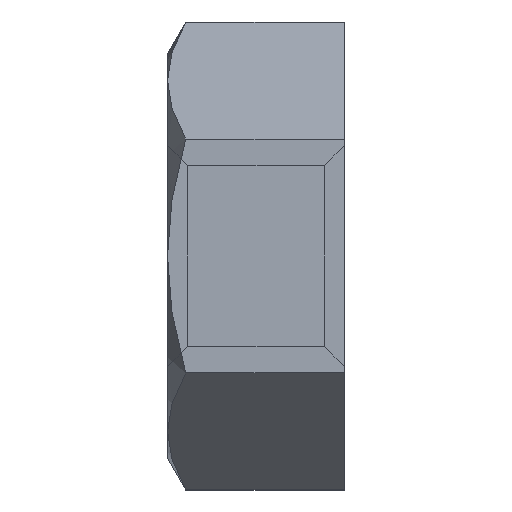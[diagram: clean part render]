
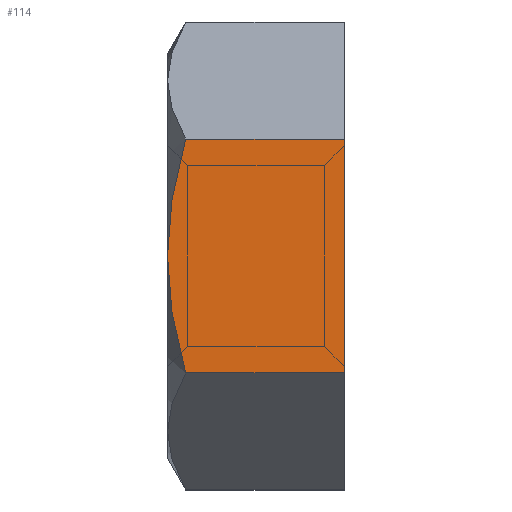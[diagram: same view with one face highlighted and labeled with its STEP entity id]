
A CAD part, left-side view. The second image highlights one B-rep face of the part: STEP entity #114.
In plain terms, the highlighted planar face has unit normal (-1, 0, 0) as drawn and (0, 0, 1) by its records, which use the part's own axes.
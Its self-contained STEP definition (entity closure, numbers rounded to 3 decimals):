
#114=ADVANCED_FACE('',(#180),#1953,.T.);
#180=FACE_OUTER_BOUND('',#250,.T.);
#250=EDGE_LOOP('',(#483,#484,#485,#486,#487));
#483=ORIENTED_EDGE('',*,*,#1666,.F.);
#484=ORIENTED_EDGE('',*,*,#1669,.T.);
#485=ORIENTED_EDGE('',*,*,#1670,.T.);
#486=ORIENTED_EDGE('',*,*,#1671,.T.);
#487=ORIENTED_EDGE('',*,*,#1672,.T.);
#768=PCURVE('',#1952,#1056);
#771=PCURVE('',#1953,#1059);
#772=PCURVE('',#1953,#1060);
#773=PCURVE('',#1953,#1061);
#774=PCURVE('',#1953,#1062);
#775=PCURVE('',#1953,#1063);
#776=PCURVE('',#1954,#1064);
#806=PCURVE('',#1996,#1094);
#808=PCURVE('',#1997,#1096);
#828=PCURVE('',#1958,#1116);
#1056=DEFINITIONAL_REPRESENTATION('',(#1347),#4282);
#1059=DEFINITIONAL_REPRESENTATION('',(#1348),#4282);
#1060=DEFINITIONAL_REPRESENTATION('',(#1350),#4282);
#1061=DEFINITIONAL_REPRESENTATION('',(#1352),#4282);
#1062=DEFINITIONAL_REPRESENTATION('',(#1813),#4282);
#1063=DEFINITIONAL_REPRESENTATION('',(#1815),#4282);
#1064=DEFINITIONAL_REPRESENTATION('',(#1353),#4282);
#1094=DEFINITIONAL_REPRESENTATION('',(#1382),#4282);
#1096=DEFINITIONAL_REPRESENTATION('',(#1384),#4282);
#1116=DEFINITIONAL_REPRESENTATION('',(#1404),#4282);
#1346=B_SPLINE_CURVE_WITH_KNOTS('',1,(#3947,#3948),.UNSPECIFIED.,.F.,.F.,
(2,2),(0.,2.154),.UNSPECIFIED.);
#1347=B_SPLINE_CURVE_WITH_KNOTS('',1,(#3949,#3950),.UNSPECIFIED.,.F.,.F.,
(2,2),(0.,2.154),.UNSPECIFIED.);
#1348=B_SPLINE_CURVE_WITH_KNOTS('',1,(#3963,#3964),.UNSPECIFIED.,.F.,.F.,
(2,2),(0.,2.154),.UNSPECIFIED.);
#1349=B_SPLINE_CURVE_WITH_KNOTS('',1,(#3965,#3966),.UNSPECIFIED.,.F.,.F.,
(2,2),(-3.175,0.),.UNSPECIFIED.);
#1350=B_SPLINE_CURVE_WITH_KNOTS('',1,(#3967,#3968),.UNSPECIFIED.,.F.,.F.,
(2,2),(-3.175,0.),.UNSPECIFIED.);
#1351=B_SPLINE_CURVE_WITH_KNOTS('',1,(#3969,#3970),.UNSPECIFIED.,.F.,.F.,
(2,2),(0.,2.154),.UNSPECIFIED.);
#1352=B_SPLINE_CURVE_WITH_KNOTS('',1,(#3971,#3972),.UNSPECIFIED.,.F.,.F.,
(2,2),(0.,2.154),.UNSPECIFIED.);
#1353=B_SPLINE_CURVE_WITH_KNOTS('',1,(#3985,#3986),.UNSPECIFIED.,.F.,.F.,
(2,2),(0.,2.154),.UNSPECIFIED.);
#1382=B_SPLINE_CURVE_WITH_KNOTS('',3,(#4130,#4131,#4132,#4133,#4134,#4135,
#4136,#4137),.UNSPECIFIED.,.F.,.F.,(4,2,2,4),(-1.661,-0.989,
-0.569,-0.044),.UNSPECIFIED.);
#1384=B_SPLINE_CURVE_WITH_KNOTS('',3,(#4143,#4144,#4145,#4146,#4147,#4148,
#4149,#4150),.UNSPECIFIED.,.F.,.F.,(4,2,2,4),(-3.278,-2.753,
-2.333,-1.661),.UNSPECIFIED.);
#1404=B_SPLINE_CURVE_WITH_KNOTS('',1,(#4227,#4228),.UNSPECIFIED.,.F.,.F.,
(2,2),(-3.175,0.),.UNSPECIFIED.);
#1522=SURFACE_CURVE('',#1346,(#768,#771),.PCURVE_S1.);
#1525=SURFACE_CURVE('',#1349,(#772,#828),.PCURVE_S1.);
#1526=SURFACE_CURVE('',#1351,(#773,#776),.PCURVE_S1.);
#1527=SURFACE_CURVE('',#1812,(#774,#808),.PCURVE_S1.);
#1528=SURFACE_CURVE('',#1814,(#775,#806),.PCURVE_S1.);
#1666=EDGE_CURVE('',#1924,#1925,#1522,.T.);
#1669=EDGE_CURVE('',#1924,#1927,#1525,.T.);
#1670=EDGE_CURVE('',#1927,#1928,#1526,.T.);
#1671=EDGE_CURVE('',#1928,#1926,#1527,.T.);
#1672=EDGE_CURVE('',#1926,#1925,#1528,.T.);
#1812=(
BOUNDED_CURVE()
B_SPLINE_CURVE(2,(#3973,#3974,#3975),.UNSPECIFIED.,.F.,.F.)
B_SPLINE_CURVE_WITH_KNOTS((3,3),(-3.278,-1.661),
 .UNSPECIFIED.)
CURVE()
GEOMETRIC_REPRESENTATION_ITEM()
RATIONAL_B_SPLINE_CURVE((1.,1.038,1.))
REPRESENTATION_ITEM('')
);
#1813=(
BOUNDED_CURVE()
B_SPLINE_CURVE(2,(#3976,#3977,#3978),.UNSPECIFIED.,.F.,.F.)
B_SPLINE_CURVE_WITH_KNOTS((3,3),(-3.278,-1.661),
 .UNSPECIFIED.)
CURVE()
GEOMETRIC_REPRESENTATION_ITEM()
RATIONAL_B_SPLINE_CURVE((1.,1.038,1.))
REPRESENTATION_ITEM('')
);
#1814=(
BOUNDED_CURVE()
B_SPLINE_CURVE(2,(#3979,#3980,#3981),.UNSPECIFIED.,.F.,.F.)
B_SPLINE_CURVE_WITH_KNOTS((3,3),(-1.661,-0.044),
 .UNSPECIFIED.)
CURVE()
GEOMETRIC_REPRESENTATION_ITEM()
RATIONAL_B_SPLINE_CURVE((1.,1.038,1.))
REPRESENTATION_ITEM('')
);
#1815=(
BOUNDED_CURVE()
B_SPLINE_CURVE(2,(#3982,#3983,#3984),.UNSPECIFIED.,.F.,.F.)
B_SPLINE_CURVE_WITH_KNOTS((3,3),(-1.661,-0.044),
 .UNSPECIFIED.)
CURVE()
GEOMETRIC_REPRESENTATION_ITEM()
RATIONAL_B_SPLINE_CURVE((1.,1.038,1.))
REPRESENTATION_ITEM('')
);
#1924=VERTEX_POINT('',#3831);
#1925=VERTEX_POINT('',#3832);
#1926=VERTEX_POINT('',#3833);
#1927=VERTEX_POINT('',#3834);
#1928=VERTEX_POINT('',#3835);
#1952=PLANE('',#2060);
#1953=PLANE('',#2061);
#1954=PLANE('',#2062);
#1958=PLANE('',#2066);
#1996=(
BOUNDED_SURFACE()
B_SPLINE_SURFACE(2,1,((#3705,#3706),(#3707,#3708),(#3709,#3710),(#3711,#3712),
(#3713,#3714),(#3715,#3716),(#3717,#3718),(#3719,#3720),(#3721,#3722)),
 .UNSPECIFIED.,.T.,.F.,.F.)
B_SPLINE_SURFACE_WITH_KNOTS((3,2,2,2,3),(2,2),(0.,1.571,3.142,
4.712,6.283),(0.,4.036),.UNSPECIFIED.)
GEOMETRIC_REPRESENTATION_ITEM()
RATIONAL_B_SPLINE_SURFACE(((1.,1.),(0.707,0.707),
(1.,1.),(0.707,0.707),(1.,1.),(0.707,
0.707),(1.,1.),(0.707,0.707),(1.,1.)))
REPRESENTATION_ITEM('')
SURFACE()
);
#1997=(
BOUNDED_SURFACE()
B_SPLINE_SURFACE(2,1,((#3723,#3724),(#3725,#3726),(#3727,#3728),(#3729,#3730),
(#3731,#3732),(#3733,#3734),(#3735,#3736),(#3737,#3738),(#3739,#3740)),
 .UNSPECIFIED.,.T.,.F.,.F.)
B_SPLINE_SURFACE_WITH_KNOTS((3,2,2,2,3),(2,2),(0.,1.571,3.142,
4.712,6.283),(0.,4.036),.UNSPECIFIED.)
GEOMETRIC_REPRESENTATION_ITEM()
RATIONAL_B_SPLINE_SURFACE(((1.,1.),(0.707,0.707),
(1.,1.),(0.707,0.707),(1.,1.),(0.707,
0.707),(1.,1.),(0.707,0.707),(1.,1.)))
REPRESENTATION_ITEM('')
SURFACE()
);
#2060=AXIS2_PLACEMENT_3D('',#3645,#2091,$);
#2061=AXIS2_PLACEMENT_3D('',#3646,#2092,$);
#2062=AXIS2_PLACEMENT_3D('',#3647,#2093,$);
#2066=AXIS2_PLACEMENT_3D('',#3813,#2097,$);
#2091=DIRECTION('',(0.,-0.866,0.5));
#2092=DIRECTION('',(0.,0.,1.));
#2093=DIRECTION('',(0.,0.866,0.5));
#2097=DIRECTION('',(1.,0.,0.));
#3645=CARTESIAN_POINT('',(0.241,-1.428,3.026));
#3646=CARTESIAN_POINT('',(0.241,1.906,2.75));
#3647=CARTESIAN_POINT('',(0.241,3.335,-0.276));
#3705=CARTESIAN_POINT('',(-3.988,0.,0.));
#3706=CARTESIAN_POINT('',(-1.97,3.495,0.));
#3707=CARTESIAN_POINT('',(-3.988,0.,0.));
#3708=CARTESIAN_POINT('',(-1.97,3.495,3.495));
#3709=CARTESIAN_POINT('',(-3.988,0.,0.));
#3710=CARTESIAN_POINT('',(-1.97,0.,3.495));
#3711=CARTESIAN_POINT('',(-3.988,0.,0.));
#3712=CARTESIAN_POINT('',(-1.97,-3.495,3.495));
#3713=CARTESIAN_POINT('',(-3.988,0.,0.));
#3714=CARTESIAN_POINT('',(-1.97,-3.495,0.));
#3715=CARTESIAN_POINT('',(-3.988,0.,0.));
#3716=CARTESIAN_POINT('',(-1.97,-3.495,-3.495));
#3717=CARTESIAN_POINT('',(-3.988,0.,0.));
#3718=CARTESIAN_POINT('',(-1.97,0.,-3.495));
#3719=CARTESIAN_POINT('',(-3.988,0.,0.));
#3720=CARTESIAN_POINT('',(-1.97,3.495,-3.495));
#3721=CARTESIAN_POINT('',(-3.988,0.,0.));
#3722=CARTESIAN_POINT('',(-1.97,3.495,0.));
#3723=CARTESIAN_POINT('',(-3.988,0.,0.));
#3724=CARTESIAN_POINT('',(-1.97,3.495,0.));
#3725=CARTESIAN_POINT('',(-3.988,0.,0.));
#3726=CARTESIAN_POINT('',(-1.97,3.495,3.495));
#3727=CARTESIAN_POINT('',(-3.988,0.,0.));
#3728=CARTESIAN_POINT('',(-1.97,0.,3.495));
#3729=CARTESIAN_POINT('',(-3.988,0.,0.));
#3730=CARTESIAN_POINT('',(-1.97,-3.495,3.495));
#3731=CARTESIAN_POINT('',(-3.988,0.,0.));
#3732=CARTESIAN_POINT('',(-1.97,-3.495,0.));
#3733=CARTESIAN_POINT('',(-3.988,0.,0.));
#3734=CARTESIAN_POINT('',(-1.97,-3.495,-3.495));
#3735=CARTESIAN_POINT('',(-3.988,0.,0.));
#3736=CARTESIAN_POINT('',(-1.97,0.,-3.495));
#3737=CARTESIAN_POINT('',(-3.988,0.,0.));
#3738=CARTESIAN_POINT('',(-1.97,3.495,-3.495));
#3739=CARTESIAN_POINT('',(-3.988,0.,0.));
#3740=CARTESIAN_POINT('',(-1.97,3.495,0.));
#3813=CARTESIAN_POINT('',(0.,3.812,3.301));
#3831=CARTESIAN_POINT('',(0.,-1.588,2.75));
#3832=CARTESIAN_POINT('',(-2.154,-1.588,2.75));
#3833=CARTESIAN_POINT('',(-2.4,0.,2.75));
#3834=CARTESIAN_POINT('',(0.,1.588,2.75));
#3835=CARTESIAN_POINT('',(-2.154,1.588,2.75));
#3947=CARTESIAN_POINT('',(0.,-1.588,2.75));
#3948=CARTESIAN_POINT('',(-2.154,-1.588,2.75));
#3949=CARTESIAN_POINT('',(0.,-3.175));
#3950=CARTESIAN_POINT('',(2.154,-3.175));
#3963=CARTESIAN_POINT('',(0.,0.));
#3964=CARTESIAN_POINT('',(2.154,0.));
#3965=CARTESIAN_POINT('',(0.,-1.588,2.75));
#3966=CARTESIAN_POINT('',(0.,1.588,2.75));
#3967=CARTESIAN_POINT('',(0.,0.));
#3968=CARTESIAN_POINT('',(0.,-3.175));
#3969=CARTESIAN_POINT('',(0.,1.588,2.75));
#3970=CARTESIAN_POINT('',(-2.154,1.588,2.75));
#3971=CARTESIAN_POINT('',(0.,-3.175));
#3972=CARTESIAN_POINT('',(2.154,-3.175));
#3973=CARTESIAN_POINT('',(-2.154,1.588,2.75));
#3974=CARTESIAN_POINT('',(-2.4,0.737,2.75));
#3975=CARTESIAN_POINT('',(-2.4,0.,2.75));
#3976=CARTESIAN_POINT('',(2.154,-3.175));
#3977=CARTESIAN_POINT('',(2.4,-2.325));
#3978=CARTESIAN_POINT('',(2.4,-1.588));
#3979=CARTESIAN_POINT('',(-2.4,0.,2.75));
#3980=CARTESIAN_POINT('',(-2.4,-0.737,2.75));
#3981=CARTESIAN_POINT('',(-2.154,-1.588,2.75));
#3982=CARTESIAN_POINT('',(2.4,-1.588));
#3983=CARTESIAN_POINT('',(2.4,-0.851));
#3984=CARTESIAN_POINT('',(2.154,0.));
#3985=CARTESIAN_POINT('',(0.,0.));
#3986=CARTESIAN_POINT('',(2.154,0.));
#4130=CARTESIAN_POINT('',(1.571,3.175));
#4131=CARTESIAN_POINT('',(1.683,3.175));
#4132=CARTESIAN_POINT('',(1.778,3.224));
#4133=CARTESIAN_POINT('',(1.908,3.341));
#4134=CARTESIAN_POINT('',(1.949,3.392));
#4135=CARTESIAN_POINT('',(2.033,3.517));
#4136=CARTESIAN_POINT('',(2.072,3.591));
#4137=CARTESIAN_POINT('',(2.107,3.667));
#4143=CARTESIAN_POINT('',(1.035,3.667));
#4144=CARTESIAN_POINT('',(1.07,3.591));
#4145=CARTESIAN_POINT('',(1.108,3.517));
#4146=CARTESIAN_POINT('',(1.193,3.392));
#4147=CARTESIAN_POINT('',(1.234,3.341));
#4148=CARTESIAN_POINT('',(1.364,3.224));
#4149=CARTESIAN_POINT('',(1.459,3.175));
#4150=CARTESIAN_POINT('',(1.571,3.175));
#4227=CARTESIAN_POINT('',(3.188,-2.75));
#4228=CARTESIAN_POINT('',(0.012,-2.75));
#4282=(
GEOMETRIC_REPRESENTATION_CONTEXT(2)
PARAMETRIC_REPRESENTATION_CONTEXT()
REPRESENTATION_CONTEXT('pspace','')
);
